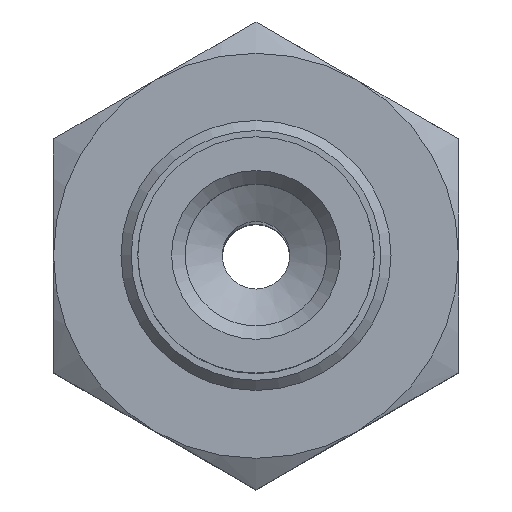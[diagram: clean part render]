
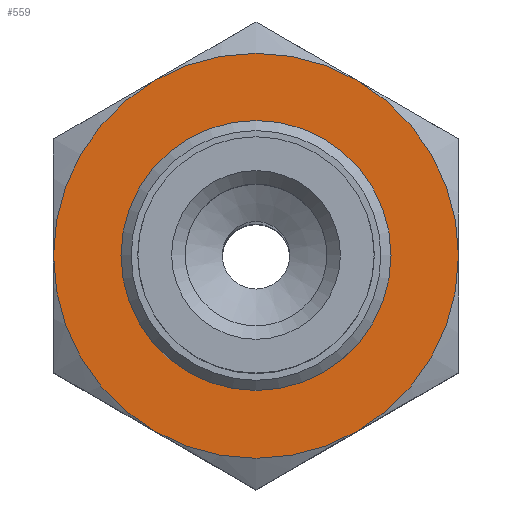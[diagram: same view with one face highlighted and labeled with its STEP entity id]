
A CAD part, top view. The second image highlights one B-rep face of the part: STEP entity #559.
In plain terms, the highlighted planar face has unit normal (0, 0, 1).
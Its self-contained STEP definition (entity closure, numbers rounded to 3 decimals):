
#559=ADVANCED_FACE('',(#823,#824),#825,.T.);
#823=FACE_BOUND('',#1268,.T.);
#824=FACE_OUTER_BOUND('',#1269,.T.);
#825=PLANE('',#1270);
#1268=EDGE_LOOP('',(#1874));
#1269=EDGE_LOOP('',(#1875,#1876,#1877,#1878,#1879,#1880));
#1270=AXIS2_PLACEMENT_3D('',#1881,#1882,#1883);
#1874=ORIENTED_EDGE('',*,*,#2683,.T.);
#1875=ORIENTED_EDGE('',*,*,#2684,.T.);
#1876=ORIENTED_EDGE('',*,*,#2685,.T.);
#1877=ORIENTED_EDGE('',*,*,#2649,.T.);
#1878=ORIENTED_EDGE('',*,*,#2671,.T.);
#1879=ORIENTED_EDGE('',*,*,#2686,.T.);
#1880=ORIENTED_EDGE('',*,*,#2681,.T.);
#1881=CARTESIAN_POINT('',(-6.928,-6.0,3.0));
#1882=DIRECTION('',(0.0,0.0,1.0));
#1883=DIRECTION('',(1.0,0.0,0.0));
#2649=EDGE_CURVE('',#2948,#2939,#2949,.T.);
#2671=EDGE_CURVE('',#2939,#2985,#2987,.T.);
#2681=EDGE_CURVE('',#2963,#2954,#3000,.T.);
#2683=EDGE_CURVE('',#3002,#3002,#3003,.T.);
#2684=EDGE_CURVE('',#2954,#2981,#3004,.T.);
#2685=EDGE_CURVE('',#2981,#2948,#3005,.T.);
#2686=EDGE_CURVE('',#2985,#2963,#3006,.T.);
#2939=VERTEX_POINT('',#3396);
#2948=VERTEX_POINT('',#3418);
#2949=CIRCLE('',#3419,6.0);
#2954=VERTEX_POINT('',#3429);
#2963=VERTEX_POINT('',#3451);
#2981=VERTEX_POINT('',#3495);
#2985=VERTEX_POINT('',#3507);
#2987=CIRCLE('',#3513,6.0);
#3000=CIRCLE('',#3542,6.0);
#3002=VERTEX_POINT('',#3544);
#3003=CIRCLE('',#3545,3.925);
#3004=CIRCLE('',#3546,6.0);
#3005=CIRCLE('',#3547,6.0);
#3006=CIRCLE('',#3548,6.0);
#3396=CARTESIAN_POINT('',(-5.196,3.0,3.0));
#3418=CARTESIAN_POINT('',(0.,6.0,3.0));
#3419=AXIS2_PLACEMENT_3D('',#4103,#4104,#4105);
#3429=CARTESIAN_POINT('',(5.196,-3.0,3.0));
#3451=CARTESIAN_POINT('',(0.,-6.0,3.0));
#3495=CARTESIAN_POINT('',(5.196,3.0,3.0));
#3507=CARTESIAN_POINT('',(-5.196,-3.0,3.0));
#3513=AXIS2_PLACEMENT_3D('',#4116,#4117,#4118);
#3542=AXIS2_PLACEMENT_3D('',#4131,#4132,#4133);
#3544=CARTESIAN_POINT('',(3.925,0.0,3.0));
#3545=AXIS2_PLACEMENT_3D('',#4137,#4138,#4139);
#3546=AXIS2_PLACEMENT_3D('',#4140,#4141,#4142);
#3547=AXIS2_PLACEMENT_3D('',#4143,#4144,#4145);
#3548=AXIS2_PLACEMENT_3D('',#4146,#4147,#4148);
#4103=CARTESIAN_POINT('',(0.,0.0,3.0));
#4104=DIRECTION('',(0.0,0.,1.0));
#4105=DIRECTION('',(0.0,-1.0,0.));
#4116=CARTESIAN_POINT('',(0.,0.0,3.0));
#4117=DIRECTION('',(0.0,0.,1.0));
#4118=DIRECTION('',(0.0,-1.0,0.));
#4131=CARTESIAN_POINT('',(0.,0.0,3.0));
#4132=DIRECTION('',(0.0,0.,1.0));
#4133=DIRECTION('',(0.0,-1.0,0.));
#4137=CARTESIAN_POINT('',(0.0,0.0,3.0));
#4138=DIRECTION('',(0.0,0.0,-1.0));
#4139=DIRECTION('',(1.0,0.0,0.0));
#4140=CARTESIAN_POINT('',(0.,0.0,3.0));
#4141=DIRECTION('',(0.0,0.,1.0));
#4142=DIRECTION('',(0.0,-1.0,0.));
#4143=CARTESIAN_POINT('',(0.,0.0,3.0));
#4144=DIRECTION('',(0.0,0.,1.0));
#4145=DIRECTION('',(0.0,-1.0,0.));
#4146=CARTESIAN_POINT('',(0.,0.0,3.0));
#4147=DIRECTION('',(0.0,0.,1.0));
#4148=DIRECTION('',(0.0,-1.0,0.));
